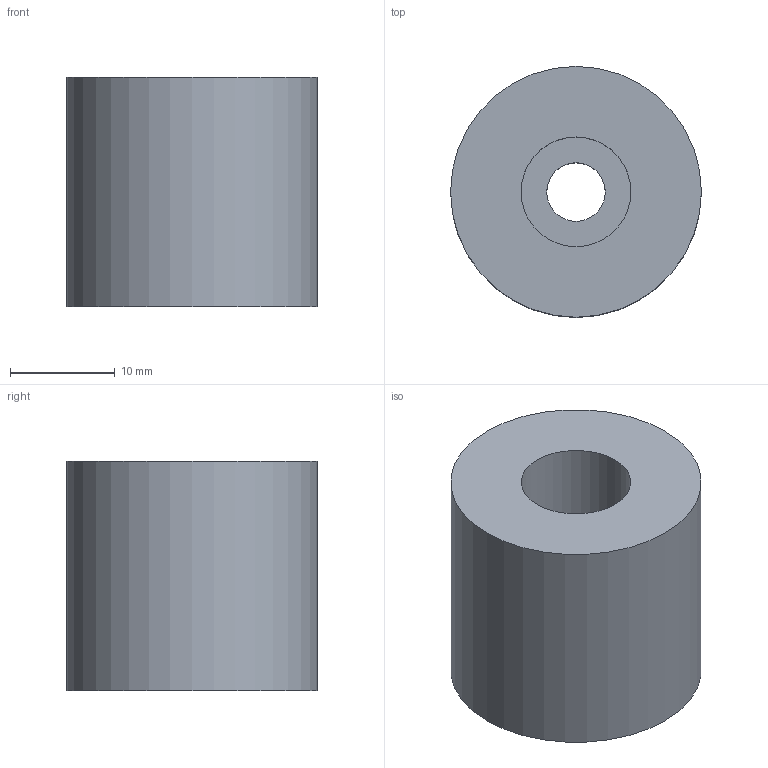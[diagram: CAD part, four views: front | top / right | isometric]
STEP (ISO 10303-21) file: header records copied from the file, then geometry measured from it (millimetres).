
FILE_DESCRIPTION(('Open CASCADE Model'),'2;1');
FILE_NAME('Open CASCADE Shape Model','2026-10-26T02:55:28',('Author'),( 'Open CASCADE'),'Open CASCADE STEP processor 7.9','build123d', 'Unknown');
FILE_SCHEMA(('AUTOMOTIVE_DESIGN { 1 0 10303 214 1 1 1 1 }'));
Length unit declared in the file: millimetre
Products named in the file (2): =>[0:1:1:2]; COMPOUND
Assembly tree (1 placements, depth 2):
  =>[0:1:1:2]
    COMPOUND
Bounding box: 24 x 24 x 22 mm (x, y, z)
Volume: 8698.2 mm3; surface area: 3078.4 mm2
Topology: 1 solids, 1 shells, 6 faces, 9 edges, 6 vertices
Faces by surface type: cylinder 3, plane 3
Full cylindrical faces by diameter (mm): 5.6 x1, 10.5 x1, 24 x1
Entity records: 288 total; most frequent: DIRECTION 49, CARTESIAN_POINT 41, ORIENTED_EDGE 18, PCURVE 18, DEFINITIONAL_REPRESENTATION 18, LINE 15, VECTOR 15, AXIS2_PLACEMENT_3D 14
